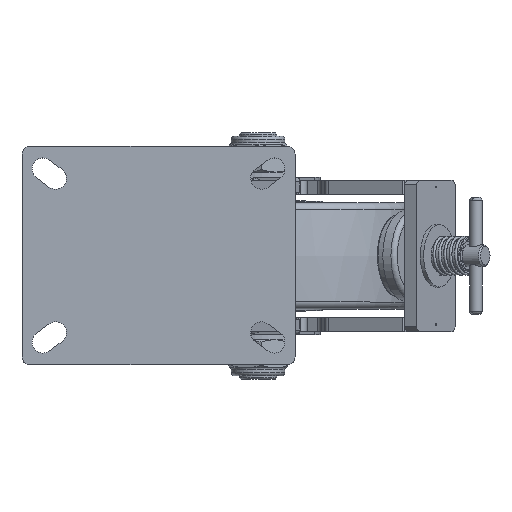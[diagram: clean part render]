
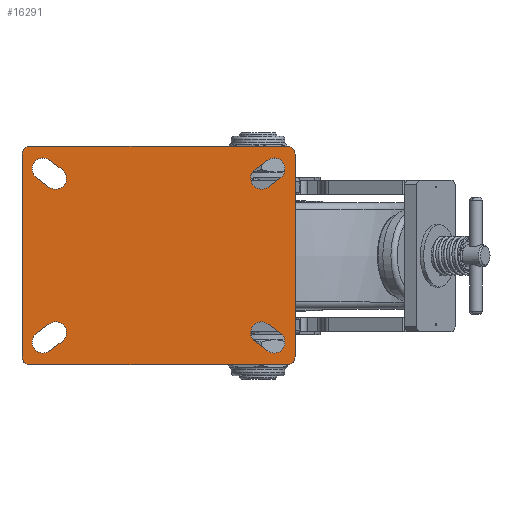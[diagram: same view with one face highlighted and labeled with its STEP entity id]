
A CAD part, top view. The second image highlights one B-rep face of the part: STEP entity #16291.
In plain terms, the highlighted planar face has unit normal (0, 0, 1).
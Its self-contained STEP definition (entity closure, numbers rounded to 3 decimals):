
#15252=CARTESIAN_POINT('',(-82.5,-70.,36.825));
#15253=VERTEX_POINT('',#15252);
#15254=CARTESIAN_POINT('',(-87.5,-65.,36.825));
#15255=VERTEX_POINT('',#15254);
#15256=CARTESIAN_POINT('',(-82.5,-65.,36.825));
#15257=DIRECTION('',(0.0,0.0,-1.));
#15258=DIRECTION('',(-0.707,-0.707,0.0));
#15259=AXIS2_PLACEMENT_3D('',#15256,#15257,#15258);
#15260=CIRCLE('',#15259,5.);
#15261=EDGE_CURVE('',#15253,#15255,#15260,.T.);
#15434=CARTESIAN_POINT('',(-87.5,65.,36.825));
#15435=VERTEX_POINT('',#15434);
#15436=CARTESIAN_POINT('',(-87.5,-65.,36.825));
#15437=DIRECTION('',(0.0,1.0,0.0));
#15438=VECTOR('',#15437,130.0);
#15439=LINE('',#15436,#15438);
#15440=EDGE_CURVE('',#15255,#15435,#15439,.T.);
#15457=CARTESIAN_POINT('',(-82.5,70.,36.825));
#15458=VERTEX_POINT('',#15457);
#15459=CARTESIAN_POINT('',(-82.5,65.,36.825));
#15460=DIRECTION('',(0.0,0.0,-1.));
#15461=DIRECTION('',(-0.707,0.707,0.0));
#15462=AXIS2_PLACEMENT_3D('',#15459,#15460,#15461);
#15463=CIRCLE('',#15462,5.);
#15464=EDGE_CURVE('',#15435,#15458,#15463,.T.);
#15482=CARTESIAN_POINT('',(82.5,70.,36.825));
#15483=VERTEX_POINT('',#15482);
#15484=CARTESIAN_POINT('',(87.5,65.,36.825));
#15485=VERTEX_POINT('',#15484);
#15486=CARTESIAN_POINT('',(82.5,65.,36.825));
#15487=DIRECTION('',(0.0,0.0,-1.));
#15488=DIRECTION('',(0.707,0.707,0.0));
#15489=AXIS2_PLACEMENT_3D('',#15486,#15487,#15488);
#15490=CIRCLE('',#15489,5.);
#15491=EDGE_CURVE('',#15483,#15485,#15490,.T.);
#15672=CARTESIAN_POINT('',(87.5,-65.,36.825));
#15673=VERTEX_POINT('',#15672);
#15674=CARTESIAN_POINT('',(87.5,65.,36.825));
#15675=DIRECTION('',(0.0,-1.0,0.0));
#15676=VECTOR('',#15675,130.);
#15677=LINE('',#15674,#15676);
#15678=EDGE_CURVE('',#15485,#15673,#15677,.T.);
#15695=CARTESIAN_POINT('',(82.5,-70.,36.825));
#15696=VERTEX_POINT('',#15695);
#15697=CARTESIAN_POINT('',(82.5,-65.,36.825));
#15698=DIRECTION('',(0.0,0.0,-1.));
#15699=DIRECTION('',(0.707,-0.707,0.0));
#15700=AXIS2_PLACEMENT_3D('',#15697,#15698,#15699);
#15701=CIRCLE('',#15700,5.);
#15702=EDGE_CURVE('',#15673,#15696,#15701,.T.);
#15830=CARTESIAN_POINT('',(-82.5,70.,36.825));
#15831=DIRECTION('',(1.0,0.0,0.0));
#15832=VECTOR('',#15831,165.0);
#15833=LINE('',#15830,#15832);
#15834=EDGE_CURVE('',#15458,#15483,#15833,.T.);
#15851=CARTESIAN_POINT('',(82.5,-70.,36.825));
#15852=DIRECTION('',(-1.0,0.0,0.0));
#15853=VECTOR('',#15852,165.);
#15854=LINE('',#15851,#15853);
#15855=EDGE_CURVE('',#15696,#15253,#15854,.T.);
#15865=CARTESIAN_POINT('',(-70.2,43.9,36.825));
#15866=VERTEX_POINT('',#15865);
#15867=CARTESIAN_POINT('',(-61.8,55.1,36.825));
#15868=VERTEX_POINT('',#15867);
#15869=CARTESIAN_POINT('',(-66.,49.5,36.825));
#15870=DIRECTION('',(0.0,0.0,1.0));
#15871=DIRECTION('',(1.0,0.0,0.0));
#15872=AXIS2_PLACEMENT_3D('',#15869,#15870,#15871);
#15873=CIRCLE('',#15872,7.);
#15874=EDGE_CURVE('',#15866,#15868,#15873,.T.);
#15897=CARTESIAN_POINT('',(-69.8,61.1,36.825));
#15898=VERTEX_POINT('',#15897);
#15899=CARTESIAN_POINT('',(-61.8,55.1,36.825));
#15900=DIRECTION('',(-0.8,0.6,0.0));
#15901=VECTOR('',#15900,10.);
#15902=LINE('',#15899,#15901);
#15903=EDGE_CURVE('',#15868,#15898,#15902,.T.);
#15921=CARTESIAN_POINT('',(-78.2,49.9,36.825));
#15922=VERTEX_POINT('',#15921);
#15923=CARTESIAN_POINT('',(-74.,55.5,36.825));
#15924=DIRECTION('',(0.0,0.0,1.0));
#15925=DIRECTION('',(1.0,0.0,0.0));
#15926=AXIS2_PLACEMENT_3D('',#15923,#15924,#15925);
#15927=CIRCLE('',#15926,7.);
#15928=EDGE_CURVE('',#15898,#15922,#15927,.T.);
#15946=CARTESIAN_POINT('',(-78.2,49.9,36.825));
#15947=DIRECTION('',(0.8,-0.6,0.0));
#15948=VECTOR('',#15947,10.);
#15949=LINE('',#15946,#15948);
#15950=EDGE_CURVE('',#15922,#15866,#15949,.T.);
#15963=CARTESIAN_POINT('',(-78.2,-49.9,36.825));
#15964=VERTEX_POINT('',#15963);
#15965=CARTESIAN_POINT('',(-69.8,-61.1,36.825));
#15966=VERTEX_POINT('',#15965);
#15967=CARTESIAN_POINT('',(-74.,-55.5,36.825));
#15968=DIRECTION('',(0.0,0.0,1.0));
#15969=DIRECTION('',(1.0,0.0,0.0));
#15970=AXIS2_PLACEMENT_3D('',#15967,#15968,#15969);
#15971=CIRCLE('',#15970,7.);
#15972=EDGE_CURVE('',#15964,#15966,#15971,.T.);
#15995=CARTESIAN_POINT('',(-61.8,-55.1,36.825));
#15996=VERTEX_POINT('',#15995);
#15997=CARTESIAN_POINT('',(-69.8,-61.1,36.825));
#15998=DIRECTION('',(0.8,0.6,0.0));
#15999=VECTOR('',#15998,10.0);
#16000=LINE('',#15997,#15999);
#16001=EDGE_CURVE('',#15966,#15996,#16000,.T.);
#16019=CARTESIAN_POINT('',(-70.2,-43.9,36.825));
#16020=VERTEX_POINT('',#16019);
#16021=CARTESIAN_POINT('',(-66.,-49.5,36.825));
#16022=DIRECTION('',(0.0,0.0,1.0));
#16023=DIRECTION('',(1.0,0.0,0.0));
#16024=AXIS2_PLACEMENT_3D('',#16021,#16022,#16023);
#16025=CIRCLE('',#16024,7.);
#16026=EDGE_CURVE('',#15996,#16020,#16025,.T.);
#16044=CARTESIAN_POINT('',(-70.2,-43.9,36.825));
#16045=DIRECTION('',(-0.8,-0.6,0.0));
#16046=VECTOR('',#16045,10.);
#16047=LINE('',#16044,#16046);
#16048=EDGE_CURVE('',#16020,#15964,#16047,.T.);
#16061=CARTESIAN_POINT('',(70.2,-43.9,36.825));
#16062=VERTEX_POINT('',#16061);
#16063=CARTESIAN_POINT('',(61.8,-55.1,36.825));
#16064=VERTEX_POINT('',#16063);
#16065=CARTESIAN_POINT('',(66.,-49.5,36.825));
#16066=DIRECTION('',(0.0,0.0,1.0));
#16067=DIRECTION('',(1.0,0.0,0.0));
#16068=AXIS2_PLACEMENT_3D('',#16065,#16066,#16067);
#16069=CIRCLE('',#16068,7.);
#16070=EDGE_CURVE('',#16062,#16064,#16069,.T.);
#16093=CARTESIAN_POINT('',(69.8,-61.1,36.825));
#16094=VERTEX_POINT('',#16093);
#16095=CARTESIAN_POINT('',(61.8,-55.1,36.825));
#16096=DIRECTION('',(0.8,-0.6,0.0));
#16097=VECTOR('',#16096,10.0);
#16098=LINE('',#16095,#16097);
#16099=EDGE_CURVE('',#16064,#16094,#16098,.T.);
#16117=CARTESIAN_POINT('',(78.2,-49.9,36.825));
#16118=VERTEX_POINT('',#16117);
#16119=CARTESIAN_POINT('',(74.,-55.5,36.825));
#16120=DIRECTION('',(0.0,0.0,1.0));
#16121=DIRECTION('',(1.0,0.0,0.0));
#16122=AXIS2_PLACEMENT_3D('',#16119,#16120,#16121);
#16123=CIRCLE('',#16122,7.);
#16124=EDGE_CURVE('',#16094,#16118,#16123,.T.);
#16142=CARTESIAN_POINT('',(78.2,-49.9,36.825));
#16143=DIRECTION('',(-0.8,0.6,0.0));
#16144=VECTOR('',#16143,10.);
#16145=LINE('',#16142,#16144);
#16146=EDGE_CURVE('',#16118,#16062,#16145,.T.);
#16159=CARTESIAN_POINT('',(78.2,49.9,36.825));
#16160=VERTEX_POINT('',#16159);
#16161=CARTESIAN_POINT('',(69.8,61.1,36.825));
#16162=VERTEX_POINT('',#16161);
#16163=CARTESIAN_POINT('',(74.,55.5,36.825));
#16164=DIRECTION('',(0.0,0.0,1.0));
#16165=DIRECTION('',(1.0,0.0,0.0));
#16166=AXIS2_PLACEMENT_3D('',#16163,#16164,#16165);
#16167=CIRCLE('',#16166,7.);
#16168=EDGE_CURVE('',#16160,#16162,#16167,.T.);
#16191=CARTESIAN_POINT('',(61.8,55.1,36.825));
#16192=VERTEX_POINT('',#16191);
#16193=CARTESIAN_POINT('',(69.8,61.1,36.825));
#16194=DIRECTION('',(-0.8,-0.6,0.0));
#16195=VECTOR('',#16194,10.);
#16196=LINE('',#16193,#16195);
#16197=EDGE_CURVE('',#16162,#16192,#16196,.T.);
#16215=CARTESIAN_POINT('',(70.2,43.9,36.825));
#16216=VERTEX_POINT('',#16215);
#16217=CARTESIAN_POINT('',(66.,49.5,36.825));
#16218=DIRECTION('',(0.0,0.0,1.0));
#16219=DIRECTION('',(1.0,0.0,0.0));
#16220=AXIS2_PLACEMENT_3D('',#16217,#16218,#16219);
#16221=CIRCLE('',#16220,7.);
#16222=EDGE_CURVE('',#16192,#16216,#16221,.T.);
#16240=CARTESIAN_POINT('',(70.2,43.9,36.825));
#16241=DIRECTION('',(0.8,0.6,0.0));
#16242=VECTOR('',#16241,10.);
#16243=LINE('',#16240,#16242);
#16244=EDGE_CURVE('',#16216,#16160,#16243,.T.);
#16252=CARTESIAN_POINT('',(-70.2,43.9,36.825));
#16253=DIRECTION('',(0.0,0.0,1.0));
#16254=DIRECTION('',(1.0,0.0,0.0));
#16255=AXIS2_PLACEMENT_3D('',#16252,#16253,#16254);
#16256=PLANE('',#16255);
#16257=ORIENTED_EDGE('',*,*,#15261,.F.);
#16258=ORIENTED_EDGE('',*,*,#15855,.F.);
#16259=ORIENTED_EDGE('',*,*,#15702,.F.);
#16260=ORIENTED_EDGE('',*,*,#15678,.F.);
#16261=ORIENTED_EDGE('',*,*,#15491,.F.);
#16262=ORIENTED_EDGE('',*,*,#15834,.F.);
#16263=ORIENTED_EDGE('',*,*,#15464,.F.);
#16264=ORIENTED_EDGE('',*,*,#15440,.F.);
#16265=EDGE_LOOP('',(#16257,#16258,#16259,#16260,#16261,#16262,#16263,#16264));
#16266=FACE_OUTER_BOUND('',#16265,.T.);
#16267=ORIENTED_EDGE('',*,*,#16168,.F.);
#16268=ORIENTED_EDGE('',*,*,#16244,.F.);
#16269=ORIENTED_EDGE('',*,*,#16222,.F.);
#16270=ORIENTED_EDGE('',*,*,#16197,.F.);
#16271=EDGE_LOOP('',(#16267,#16268,#16269,#16270));
#16272=FACE_BOUND('',#16271,.T.);
#16273=ORIENTED_EDGE('',*,*,#16070,.F.);
#16274=ORIENTED_EDGE('',*,*,#16146,.F.);
#16275=ORIENTED_EDGE('',*,*,#16124,.F.);
#16276=ORIENTED_EDGE('',*,*,#16099,.F.);
#16277=EDGE_LOOP('',(#16273,#16274,#16275,#16276));
#16278=FACE_BOUND('',#16277,.T.);
#16279=ORIENTED_EDGE('',*,*,#15972,.F.);
#16280=ORIENTED_EDGE('',*,*,#16048,.F.);
#16281=ORIENTED_EDGE('',*,*,#16026,.F.);
#16282=ORIENTED_EDGE('',*,*,#16001,.F.);
#16283=EDGE_LOOP('',(#16279,#16280,#16281,#16282));
#16284=FACE_BOUND('',#16283,.T.);
#16285=ORIENTED_EDGE('',*,*,#15874,.F.);
#16286=ORIENTED_EDGE('',*,*,#15950,.F.);
#16287=ORIENTED_EDGE('',*,*,#15928,.F.);
#16288=ORIENTED_EDGE('',*,*,#15903,.F.);
#16289=EDGE_LOOP('',(#16285,#16286,#16287,#16288));
#16290=FACE_BOUND('',#16289,.T.);
#16291=ADVANCED_FACE('',(#16266,#16272,#16278,#16284,#16290),#16256,.T.);
